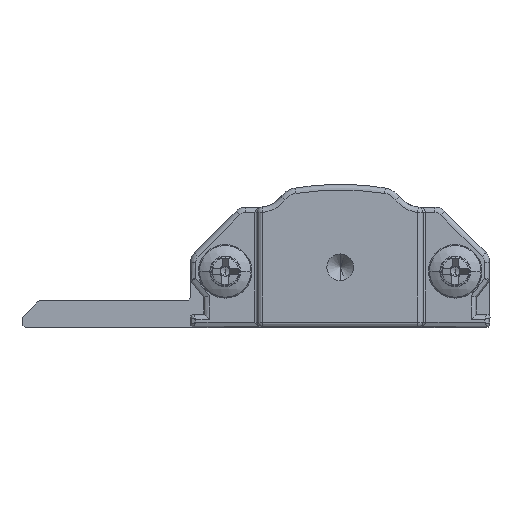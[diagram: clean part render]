
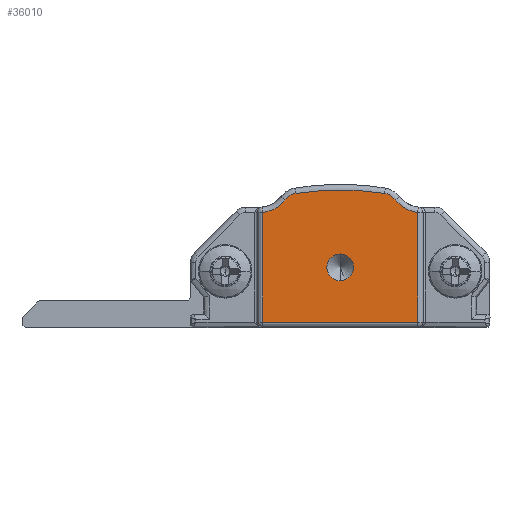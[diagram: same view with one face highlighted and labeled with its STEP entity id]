
A CAD part, front view. The second image highlights one B-rep face of the part: STEP entity #36010.
In plain terms, the highlighted planar face has unit normal (0, -1, 0).
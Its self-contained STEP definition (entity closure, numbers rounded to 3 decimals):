
#918 = DIRECTION ( 'NONE',  ( 0., -1., 0. ) ) ;
#1051 = EDGE_CURVE ( 'NONE', #37942, #1095, #10626, .T. ) ;
#1095 = VERTEX_POINT ( 'NONE', #14508 ) ;
#1241 = EDGE_CURVE ( 'NONE', #34492, #9145, #19181, .T. ) ;
#2324 = CARTESIAN_POINT ( 'NONE',  ( 11.2, -15., 3.5 ) ) ;
#2419 = AXIS2_PLACEMENT_3D ( 'NONE', #17443, #7878, #38825 ) ;
#2601 = CARTESIAN_POINT ( 'NONE',  ( 17., -15., 0.4 ) ) ;
#2730 = VERTEX_POINT ( 'NONE', #15340 ) ;
#3507 = CIRCLE ( 'NONE', #10712, 1. ) ;
#4245 = EDGE_CURVE ( 'NONE', #5212, #10980, #23197, .T. ) ;
#4684 = CARTESIAN_POINT ( 'NONE',  ( 17., -15., 0.4 ) ) ;
#5202 = FACE_OUTER_BOUND ( 'NONE', #23306, .T. ) ;
#5212 = VERTEX_POINT ( 'NONE', #39698 ) ;
#7168 = VECTOR ( 'NONE', #15908, 1000. ) ;
#7170 = CARTESIAN_POINT ( 'NONE',  ( 11.2, -15., 4.5 ) ) ;
#7662 = AXIS2_PLACEMENT_3D ( 'NONE', #20107, #9652, #32919 ) ;
#7878 = DIRECTION ( 'NONE',  ( 0., 1., 0. ) ) ;
#8153 = FACE_BOUND ( 'NONE', #29247, .T. ) ;
#8784 = DIRECTION ( 'NONE',  ( 1., 0., 0. ) ) ;
#9021 = DIRECTION ( 'NONE',  ( 0., -1., 0. ) ) ;
#9145 = VERTEX_POINT ( 'NONE', #23791 ) ;
#9652 = DIRECTION ( 'NONE',  ( 0., 1., 0. ) ) ;
#10626 = LINE ( 'NONE', #24726, #34411 ) ;
#10648 = ORIENTED_EDGE ( 'NONE', *, *, #34621, .T. ) ;
#10712 = AXIS2_PLACEMENT_3D ( 'NONE', #7170, #30823, #21065 ) ;
#10980 = VERTEX_POINT ( 'NONE', #36004 ) ;
#11561 = CARTESIAN_POINT ( 'NONE',  ( 14.3, -15., 8.75 ) ) ;
#11892 = ORIENTED_EDGE ( 'NONE', *, *, #4245, .T. ) ;
#13238 = CARTESIAN_POINT ( 'NONE',  ( 11.2, -15., -10.376 ) ) ;
#13633 = ORIENTED_EDGE ( 'NONE', *, *, #22388, .F. ) ;
#13875 = EDGE_CURVE ( 'NONE', #16222, #42290, #40708, .T. ) ;
#14508 = CARTESIAN_POINT ( 'NONE',  ( 17., -15., 8.612 ) ) ;
#15340 = CARTESIAN_POINT ( 'NONE',  ( 11.2, -15., 5.5 ) ) ;
#15595 = LINE ( 'NONE', #4684, #37173 ) ;
#15908 = DIRECTION ( 'NONE',  ( 0., 0., -1. ) ) ;
#16222 = VERTEX_POINT ( 'NONE', #44167 ) ;
#16473 = CARTESIAN_POINT ( 'NONE',  ( 5.4, -15., 0.4 ) ) ;
#17443 = CARTESIAN_POINT ( 'NONE',  ( 17.238, -15., 11. ) ) ;
#18319 = DIRECTION ( 'NONE',  ( 0., -1., 0. ) ) ;
#19067 = DIRECTION ( 'NONE',  ( 0., 0., -1. ) ) ;
#19181 = CIRCLE ( 'NONE', #22822, 1.3 ) ;
#19560 = AXIS2_PLACEMENT_3D ( 'NONE', #11561, #918, #19067 ) ;
#19815 = EDGE_CURVE ( 'NONE', #25229, #2730, #3507, .T. ) ;
#19848 = DIRECTION ( 'NONE',  ( 0., -1., 0. ) ) ;
#20107 = CARTESIAN_POINT ( 'NONE',  ( 5.162, -15., 11. ) ) ;
#20475 = ORIENTED_EDGE ( 'NONE', *, *, #1241, .T. ) ;
#21065 = DIRECTION ( 'NONE',  ( 0., 0., -1. ) ) ;
#21745 = CARTESIAN_POINT ( 'NONE',  ( 11.2, -15., 4.5 ) ) ;
#22023 = ORIENTED_EDGE ( 'NONE', *, *, #19815, .F. ) ;
#22032 = CARTESIAN_POINT ( 'NONE',  ( 22.15, -15., 3.606 ) ) ;
#22388 = EDGE_CURVE ( 'NONE', #2730, #25229, #33199, .T. ) ;
#22708 = ORIENTED_EDGE ( 'NONE', *, *, #43041, .T. ) ;
#22822 = AXIS2_PLACEMENT_3D ( 'NONE', #33803, #9021, #43572 ) ;
#23197 = CIRCLE ( 'NONE', #19560, 1.3 ) ;
#23306 = EDGE_LOOP ( 'NONE', ( #27401, #35703, #11892, #10648, #20475, #22708, #29324, #36674 ) ) ;
#23791 = CARTESIAN_POINT ( 'NONE',  ( 7.068, -15., 9.541 ) ) ;
#24726 = CARTESIAN_POINT ( 'NONE',  ( 17., -15., 8.612 ) ) ;
#25229 = VERTEX_POINT ( 'NONE', #2324 ) ;
#27401 = ORIENTED_EDGE ( 'NONE', *, *, #1051, .T. ) ;
#29247 = EDGE_LOOP ( 'NONE', ( #22023, #13633 ) ) ;
#29324 = ORIENTED_EDGE ( 'NONE', *, *, #13875, .T. ) ;
#29826 = AXIS2_PLACEMENT_3D ( 'NONE', #13238, #19848, #37583 ) ;
#30278 = EDGE_CURVE ( 'NONE', #1095, #5212, #31457, .T. ) ;
#30553 = CIRCLE ( 'NONE', #29826, 20.676 ) ;
#30823 = DIRECTION ( 'NONE',  ( 0., -1., 0. ) ) ;
#30863 = CIRCLE ( 'NONE', #7662, 2.4 ) ;
#31457 = CIRCLE ( 'NONE', #2419, 2.4 ) ;
#32439 = AXIS2_PLACEMENT_3D ( 'NONE', #21745, #18319, #35607 ) ;
#32711 = PLANE ( 'NONE',  #34951 ) ;
#32919 = DIRECTION ( 'NONE',  ( 0., 0., -1. ) ) ;
#33199 = CIRCLE ( 'NONE', #32439, 1. ) ;
#33803 = CARTESIAN_POINT ( 'NONE',  ( 8.1, -15., 8.75 ) ) ;
#34411 = VECTOR ( 'NONE', #35203, 1000. ) ;
#34492 = VERTEX_POINT ( 'NONE', #41254 ) ;
#34621 = EDGE_CURVE ( 'NONE', #10980, #34492, #30553, .T. ) ;
#34951 = AXIS2_PLACEMENT_3D ( 'NONE', #22032, #35906, #43382 ) ;
#35203 = DIRECTION ( 'NONE',  ( 0., 0., 1. ) ) ;
#35607 = DIRECTION ( 'NONE',  ( 0., 0., -1. ) ) ;
#35703 = ORIENTED_EDGE ( 'NONE', *, *, #30278, .T. ) ;
#35906 = DIRECTION ( 'NONE',  ( 0., -1., 0. ) ) ;
#36004 = CARTESIAN_POINT ( 'NONE',  ( 14.508, -15., 10.034 ) ) ;
#36010 = ADVANCED_FACE ( 'NONE', ( #5202, #8153 ), #32711, .T. ) ;
#36674 = ORIENTED_EDGE ( 'NONE', *, *, #41418, .T. ) ;
#37173 = VECTOR ( 'NONE', #8784, 1000. ) ;
#37583 = DIRECTION ( 'NONE',  ( 0., 0., -1. ) ) ;
#37942 = VERTEX_POINT ( 'NONE', #2601 ) ;
#38825 = DIRECTION ( 'NONE',  ( 0., 0., -1. ) ) ;
#39698 = CARTESIAN_POINT ( 'NONE',  ( 15.332, -15., 9.541 ) ) ;
#40236 = CARTESIAN_POINT ( 'NONE',  ( 5.4, -15., 0.4 ) ) ;
#40708 = LINE ( 'NONE', #40236, #7168 ) ;
#41254 = CARTESIAN_POINT ( 'NONE',  ( 7.892, -15., 10.034 ) ) ;
#41418 = EDGE_CURVE ( 'NONE', #42290, #37942, #15595, .T. ) ;
#42290 = VERTEX_POINT ( 'NONE', #16473 ) ;
#43041 = EDGE_CURVE ( 'NONE', #9145, #16222, #30863, .T. ) ;
#43382 = DIRECTION ( 'NONE',  ( 0., 0., -1. ) ) ;
#43572 = DIRECTION ( 'NONE',  ( 0., 0., -1. ) ) ;
#44167 = CARTESIAN_POINT ( 'NONE',  ( 5.4, -15., 8.612 ) ) ;
